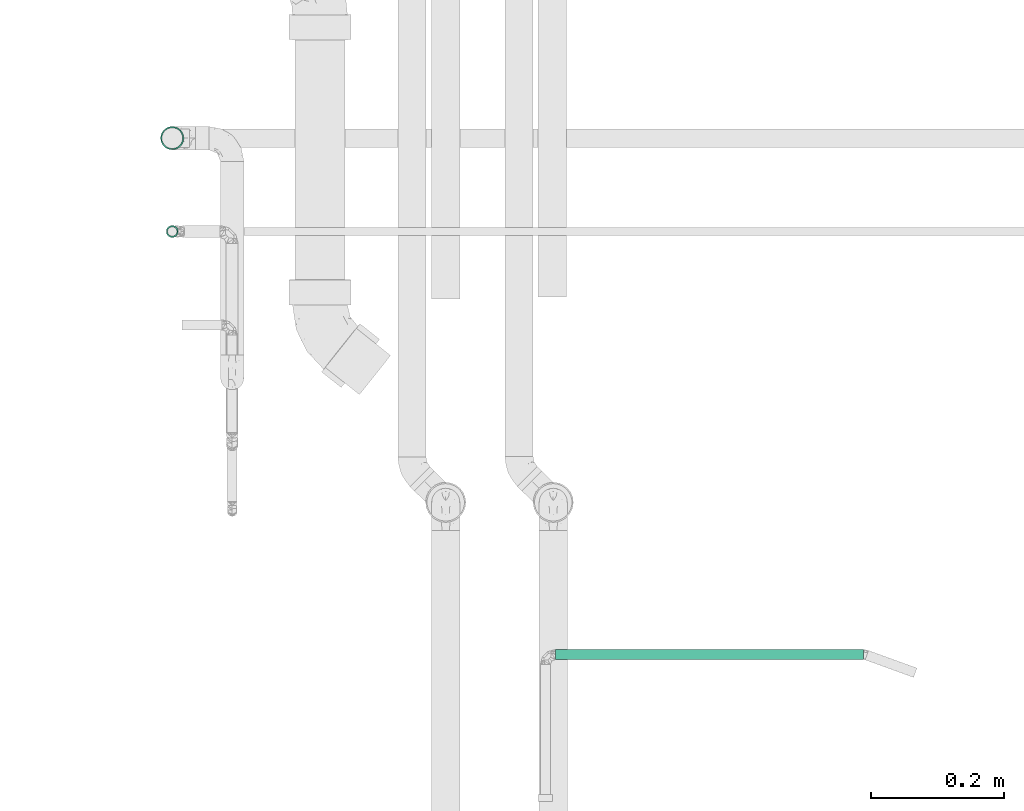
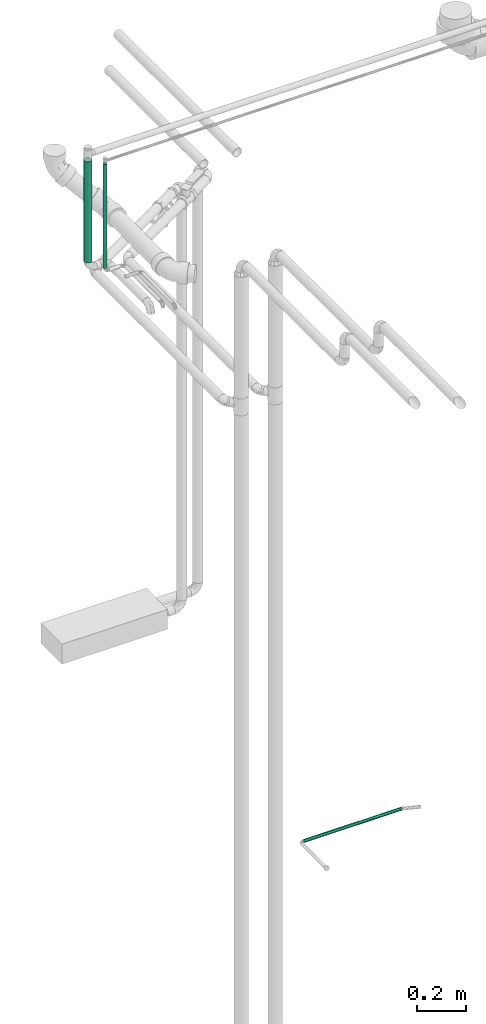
# One storey, part 36 of 108: 3 flow segments.
"""IFC2X3 building model written with IfcOpenShell, lengths in millimetres."""

from ifc_helpers import new_model, entity, si_unit, converted_unit, derived_unit, direction, frame, origin_with_axes, origin_2d_with_axis, place, context, subcontext, project, spatial, hollow_circle, extrude, source, transform, mapped, type_object, element, save


model = new_model("IFC2X3")

# Units and contexts
model_context = context("Model", 3, precision=0.01, world=frame((0.0, 4.29681676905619e-09, 0.0)), true_north=direction((4.01073788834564e-13, 1.0)))
plan_context = context("Plan", 3, precision=0.01, world=frame((0.0, 4.29681676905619e-09, 0.0)), true_north=direction((4.01073788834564e-13, 1.0)))
body_context = subcontext(model_context, "Body", "Model", "MODEL_VIEW")
ifc_project = project(units=[converted_unit("PLANEANGLEUNIT", "DEGREE", entity("IfcPositiveLengthMeasure", 0.0174532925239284), si_unit("PLANEANGLEUNIT", "RADIAN"), dimensions=[0, 0, 0, 0, 0, 0, 0]), si_unit("AREAUNIT", "SQUARE_METRE"), si_unit("LENGTHUNIT", "METRE", prefix="MILLI"), si_unit("MASSUNIT", "GRAM", prefix="KILO"), si_unit("POWERUNIT", "WATT"), si_unit("PRESSUREUNIT", "PASCAL", prefix="KILO"), si_unit("FORCEUNIT", "NEWTON", prefix="KILO"), si_unit("ELECTRICVOLTAGEUNIT", "VOLT"), si_unit("ELECTRICCURRENTUNIT", "AMPERE"), si_unit("THERMODYNAMICTEMPERATUREUNIT", "DEGREE_CELSIUS"), si_unit("TIMEUNIT", "SECOND"), si_unit("VOLUMEUNIT", "CUBIC_METRE"), derived_unit("LINEARVELOCITYUNIT", [(si_unit("LENGTHUNIT", "METRE"), 1), (si_unit("TIMEUNIT", "SECOND"), -1)]), derived_unit("VOLUMETRICFLOWRATEUNIT", [(si_unit("VOLUMEUNIT", "CUBIC_METRE"), 1), (si_unit("TIMEUNIT", "SECOND"), -1)]), derived_unit("THERMALTRANSMITTANCEUNIT", [(si_unit("POWERUNIT", "WATT"), 1), (si_unit("THERMODYNAMICTEMPERATUREUNIT", "KELVIN"), -1), (si_unit("AREAUNIT", "SQUARE_METRE"), -1)]), derived_unit("SOUNDPRESSUREUNIT", [(si_unit("PRESSUREUNIT", "PASCAL"), 1)])], contexts=[model_context, plan_context])

# Site, building, storey
site_placement = place(None, frame((0.0, -4.29681676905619e-09, 0.0), z_axis=(0.0, 0.0, 1.0), x_axis=(1.0, 0.0, 0.0)))
site = spatial("IfcSite", under=ifc_project, at=site_placement, CompositionType="ELEMENT")
building_placement = place(site_placement, frame((0.0, 4.29681676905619e-09, 0.0), z_axis=(0.0, 0.0, 1.0), x_axis=(1.0, 0.0, 0.0)))
building = spatial("IfcBuilding", under=site, at=building_placement, Name="mc-building", CompositionType="ELEMENT")
storey_placement = place(building_placement, frame((0.0, 0.0, 210200.0), z_axis=(0.0, 0.0, 1.0), x_axis=(1.0, 0.0, 0.0)))
storey = spatial("IfcBuildingStorey", under=building, at=storey_placement, Name="Nivå F - 0,7 m", CompositionType="ELEMENT", Elevation=210200.0)

# Flow segments
pipe_segment_type = type_object("IfcPipeSegmentType", Name="Kobberrør", PredefinedType="RIGIDSEGMENT")
shared_shape_1 = source(origin_with_axes(), body_context, "Body", "SweptSolid", [
    extrude(hollow_circle(Radius=7.5, WallThickness=2.0, at=origin_2d_with_axis()), frame((0.0, 0.0, 0.0), z_axis=(1.0, 0.0, 0.0), x_axis=(0.0, 1.0, 0.0)), (0.0, 0.0, 1.0), 462.4),
])
flow_segment_1_placement = place(storey_placement, frame((325075.66527, 462675.12547, 58.8447400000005), z_axis=(0.0, 0.0, 1.0), x_axis=(-1.0, 0.0, 0.0)))
element("IfcFlowSegment", 1, at=flow_segment_1_placement, inside=storey, type_object=pipe_segment_type, Name="Kobberrør", context=body_context, shape_type="MappedRepresentation", body=[
    mapped(shared_shape_1, transform((0.0, 0.0, 0.0), scale=1.0)),
])
shared_shape_2 = source(origin_with_axes(), body_context, "Body", "SweptSolid", [
    extrude(hollow_circle(Radius=9.0, WallThickness=2.0, at=origin_2d_with_axis()), frame((0.0, 0.0, 0.0), z_axis=(1.0, 0.0, 0.0), x_axis=(0.0, 1.0, 0.0)), (0.0, 0.0, 1.0), 522.3),
])
flow_segment_2_placement = place(storey_placement, frame((324038.4875, 463310.0, 2750.14094000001), z_axis=(1.0, 0.0, 0.0), x_axis=(0.0, 0.0, 1.0)))
element("IfcFlowSegment", 2, at=flow_segment_2_placement, inside=storey, type_object=pipe_segment_type, Name="Kobberrør", context=body_context, shape_type="MappedRepresentation", body=[
    mapped(shared_shape_2, transform((0.0, 0.0, 0.0), scale=1.0)),
])
shared_shape_3 = source(origin_with_axes(), body_context, "Body", "SweptSolid", [
    extrude(hollow_circle(Radius=17.5, WallThickness=2.0, at=origin_2d_with_axis()), frame((0.0, 0.0, 0.0), z_axis=(1.0, 0.0, 0.0), x_axis=(0.0, 1.0, 0.0)), (0.0, 0.0, 1.0), 507.3),
])
flow_segment_3_placement = place(storey_placement, frame((324038.4875, 463450.0, 2698.34624000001), z_axis=(0.0, 1.0, 0.0), x_axis=(0.0, 0.0, 1.0)))
element("IfcFlowSegment", 3, at=flow_segment_3_placement, inside=storey, type_object=pipe_segment_type, Name="Kobberrør", context=body_context, shape_type="MappedRepresentation", body=[
    mapped(shared_shape_3, transform((0.0, 0.0, 0.0), scale=1.0)),
])

save(model, "model.ifc")
